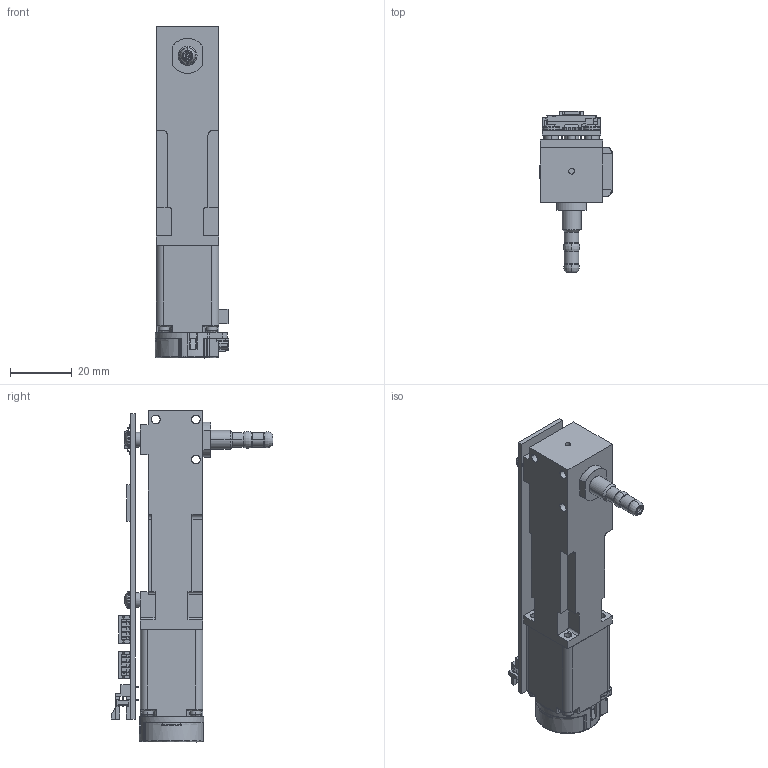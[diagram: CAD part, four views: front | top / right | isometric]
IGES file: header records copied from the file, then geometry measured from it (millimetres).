
Start section: SolidWorks IGES file using analytic representation for surfaces
Global section: file name: C:\SWPDM\GDT\TriContinent\Production Docs\MOD\Assembly Web\MOD91022\MOD91022 RC.IGS; native system: SolidWorks 2017; preprocessor: SolidWorks 2017; author: raw2042; date: 180312.111325; units: inch
Bounding box: 23.83 x 52.51 x 107.62 mm (x, y, z)
Surface area: 26051 mm2 (no closed solid volume)
Topology: 0 solids, 0 shells, 1643 faces, 17722 edges, 17700 vertices
Faces by surface type: bspline 993, revolution 650
